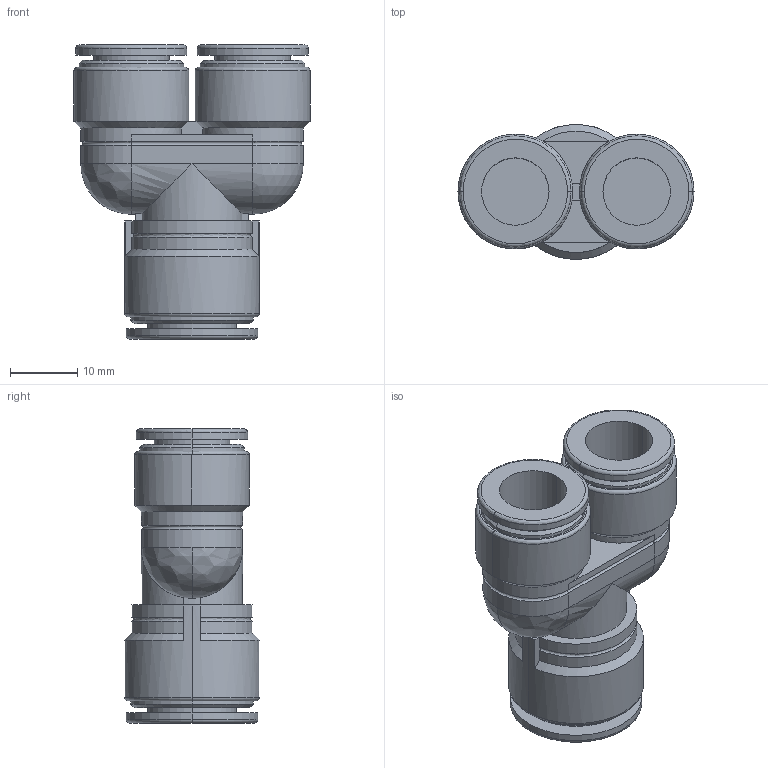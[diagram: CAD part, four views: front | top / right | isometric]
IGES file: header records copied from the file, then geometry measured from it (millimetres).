
Global section: file name: No Iges File Name specified; native system: AutoDesk Inventor R11.0; preprocessor: AutoDesk Inventor Iges Exporter R11.0; author: No Author specified; organization: No Organization specified; date: 20120321.163026; units: millimetre
Bounding box: 35 x 20 x 43.6 mm (x, y, z)
Volume: 11284.6 mm3; surface area: 6712.6 mm2
Topology: 1 solids, 1 shells, 109 faces, 250 edges, 152 vertices
Faces by surface type: bspline 34, cylinder 27, plane 25, torus 8, cone 7, revolution 6, sphere 2
